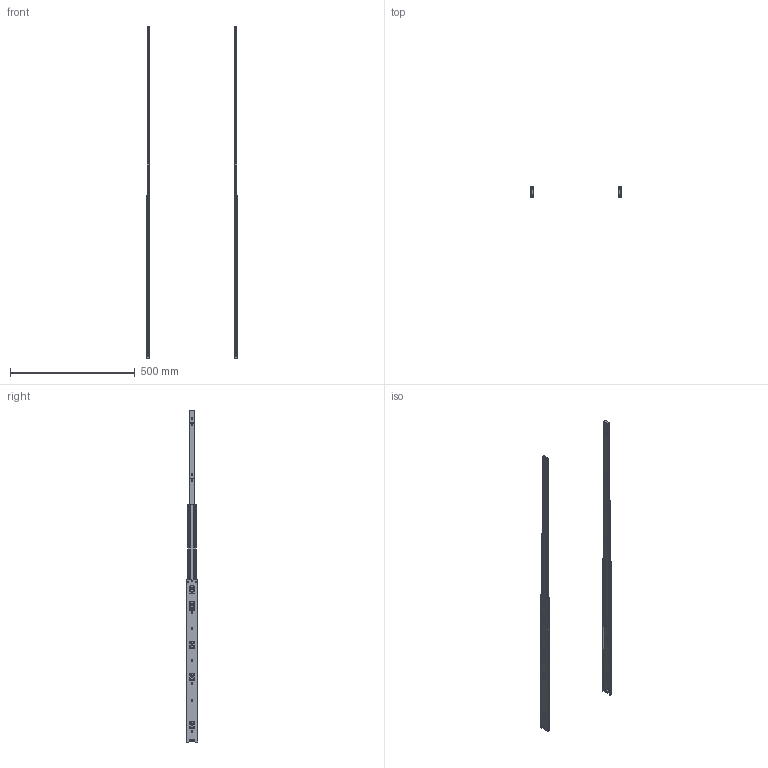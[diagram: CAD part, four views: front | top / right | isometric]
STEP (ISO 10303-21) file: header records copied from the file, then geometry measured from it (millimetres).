
FILE_DESCRIPTION(/* description */ (''),/* implementation_level */ '2;1');
FILE_NAME(/* name */ 'D:\$Workingspace\Designs\Katalog\Cadsoft\GTV Prowadnice\Prowadnice GTV_bryły 3D\PK-0H45650GX_wysunieta.stp',/* time_stamp */ '2016-11-22T11:53:24+01:00',/* author */ ('tomaszw'),/* organization */ (''),/* preprocessor_version */ 'ST-DEVELOPER v16.1',/* originating_system */ 'Autodesk Inventor 2016',/* authorisation */ '');
FILE_SCHEMA (('AUTOMOTIVE_DESIGN { 1 0 10303 214 3 1 1 }'));
Length unit declared in the file: millimetre
Products named in the file (5): Blokada_5; PK-0H45_1-650-GX; PK-0H45_2-650-GX; PK-0H45_3-650-GX; PK-0H45-_-GX
Assembly tree (8 placements, depth 2):
  PK-0H45-_-GX
    Blokada_5  x2
    PK-0H45_1-650-GX  x2
    PK-0H45_2-650-GX  x2
    PK-0H45_3-650-GX  x2
Bounding box: 364 x 44.5 x 1330 mm (x, y, z)
Volume: 194915.9 mm3; surface area: 398158.4 mm2
Topology: 8 solids, 8 shells, 552 faces, 1600 edges, 1064 vertices
Faces by surface type: cylinder 284, plane 264, cone 4
Full cylindrical faces by diameter (mm): 4.5 x6, 5 x2, 5.1 x2, 6 x10, 7 x4
Entity records: 9693 total; most frequent: DIRECTION 1640, CARTESIAN_POINT 1635, ORIENTED_EDGE 1576, EDGE_CURVE 788, AXIS2_PLACEMENT_3D 571, VERTEX_POINT 532, LINE 498, VECTOR 498
